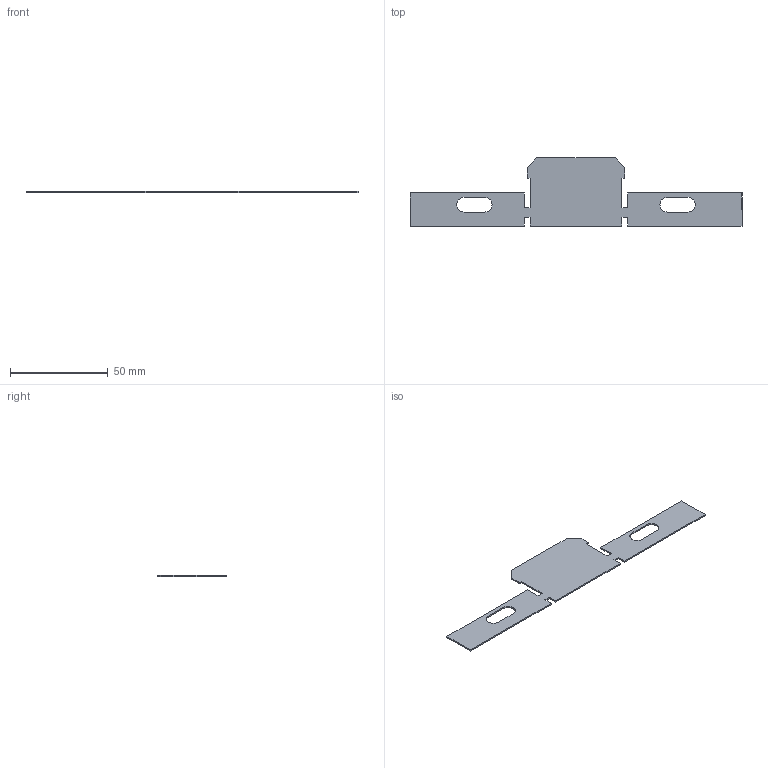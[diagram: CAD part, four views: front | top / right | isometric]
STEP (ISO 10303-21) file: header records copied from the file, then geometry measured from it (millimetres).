
FILE_DESCRIPTION (( 'STEP AP203' ), '1' );
FILE_NAME ('REER 50x35.STEP', '2020-02-12T08:26:40', ( '' ), ( '' ), 'SwSTEP 2.0', 'SolidWorks 2019', '' );
FILE_SCHEMA (( 'CONFIG_CONTROL_DESIGN' ));
Length unit declared in the file: millimetre
Products named in the file (1): REER 50x35
Bounding box: 170 x 35 x 0.7 mm (x, y, z)
Volume: 2397.3 mm3; surface area: 7232.4 mm2
Topology: 1 solids, 1 shells, 38 faces, 108 edges, 72 vertices
Faces by surface type: plane 32, cylinder 6
Entity records: 1309 total; most frequent: CARTESIAN_POINT 219, ORIENTED_EDGE 216, DIRECTION 198, EDGE_CURVE 108, VECTOR 96, LINE 96, VERTEX_POINT 72, AXIS2_PLACEMENT_3D 51
